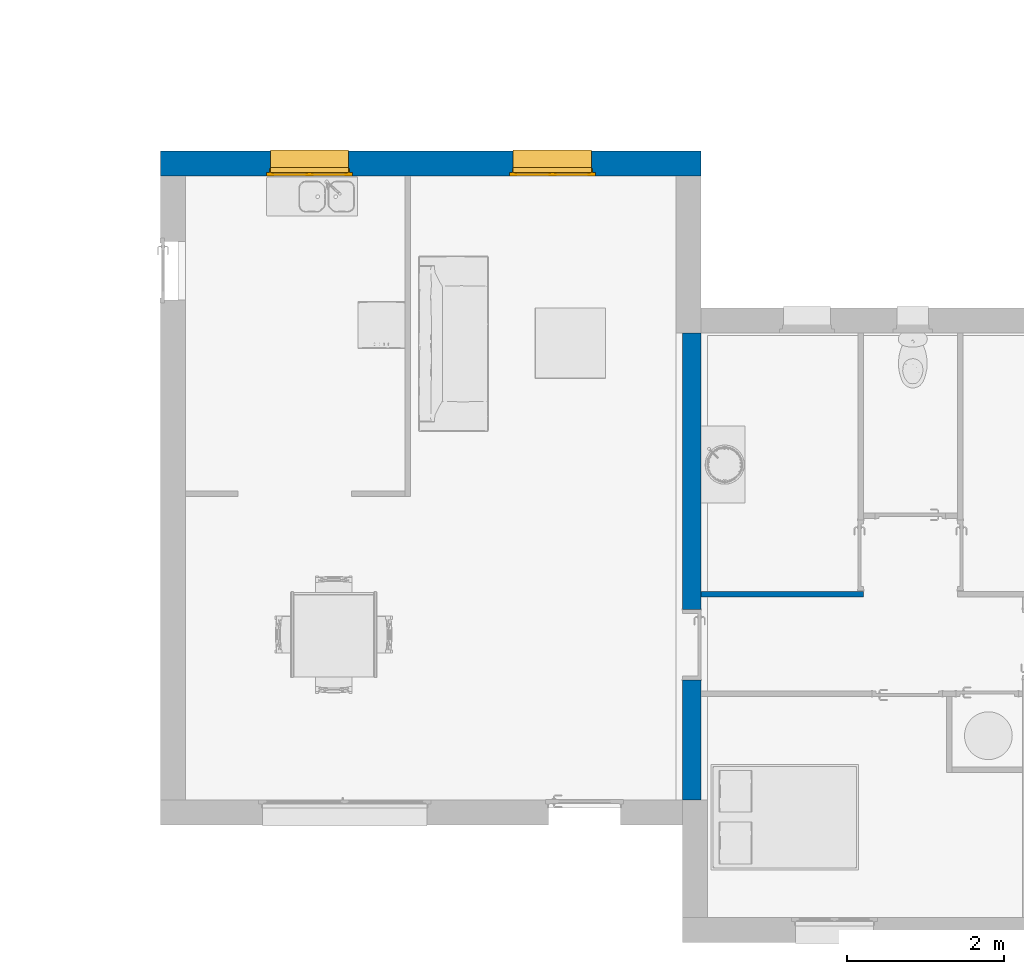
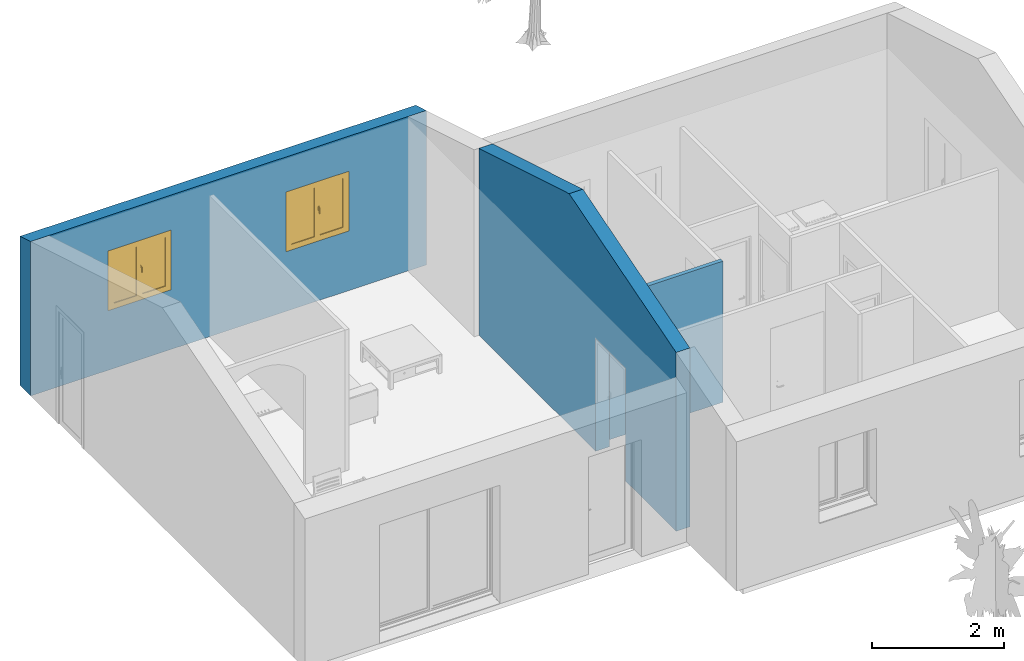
# One storey, part 5 of 18: 3 walls, 2 windows, 3 openings.
"""IFC2X3 building model written with IfcOpenShell, lengths in metres."""

from ifc_helpers import new_model, entity, si_unit, converted_unit, derived_unit, direction, frame, frame_2d, origin, place, context, subcontext, project, spatial, polyline, rectangle, extrude, clip, bounded_halfspace, faceted_brep, source, transform, mapped, material, material_list, layer, layer_set, layer_usage, type_object, type_shapes, element, fill, save


model = new_model("IFC2X3")

# Units and contexts
model_context = context("Model", 3, precision=1e-05, world=origin(), true_north=direction((6.12303176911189e-17, 1.0)))
body_context = subcontext(model_context, "Body", "Model", "MODEL_VIEW")
ifc_project = project(units=[si_unit("LENGTHUNIT", "METRE"), si_unit("AREAUNIT", "SQUARE_METRE"), si_unit("VOLUMEUNIT", "CUBIC_METRE"), converted_unit("PLANEANGLEUNIT", "DEGREE", entity("IfcRatioMeasure", 0.0174532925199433), si_unit("PLANEANGLEUNIT", "RADIAN"), dimensions=[0, 0, 0, 0, 0, 0, 0]), si_unit("MASSUNIT", "GRAM", prefix="KILO"), derived_unit("MASSDENSITYUNIT", [(si_unit("MASSUNIT", "GRAM", prefix="KILO"), 1), (si_unit("LENGTHUNIT", "METRE"), -3)]), derived_unit("MOMENTOFINERTIAUNIT", [(si_unit("LENGTHUNIT", "METRE"), 4)]), si_unit("TIMEUNIT", "SECOND"), si_unit("FREQUENCYUNIT", "HERTZ"), si_unit("THERMODYNAMICTEMPERATUREUNIT", "DEGREE_CELSIUS"), derived_unit("THERMALTRANSMITTANCEUNIT", [(si_unit("MASSUNIT", "GRAM", prefix="KILO"), 1), (si_unit("THERMODYNAMICTEMPERATUREUNIT", "KELVIN"), -1), (si_unit("TIMEUNIT", "SECOND"), -3)]), derived_unit("VOLUMETRICFLOWRATEUNIT", [(si_unit("LENGTHUNIT", "METRE"), 3), (si_unit("TIMEUNIT", "SECOND"), -1)]), si_unit("ELECTRICCURRENTUNIT", "AMPERE"), si_unit("ELECTRICVOLTAGEUNIT", "VOLT"), si_unit("POWERUNIT", "WATT"), si_unit("FORCEUNIT", "NEWTON", prefix="KILO"), si_unit("ILLUMINANCEUNIT", "LUX"), si_unit("LUMINOUSFLUXUNIT", "LUMEN"), si_unit("LUMINOUSINTENSITYUNIT", "CANDELA"), derived_unit("USERDEFINED", [(si_unit("MASSUNIT", "GRAM", prefix="KILO"), -1), (si_unit("LENGTHUNIT", "METRE"), -2), (si_unit("TIMEUNIT", "SECOND"), 3), (si_unit("LUMINOUSFLUXUNIT", "LUMEN"), 1)]), derived_unit("LINEARVELOCITYUNIT", [(si_unit("LENGTHUNIT", "METRE"), 1), (si_unit("TIMEUNIT", "SECOND"), -1)]), si_unit("PRESSUREUNIT", "PASCAL"), derived_unit("USERDEFINED", [(si_unit("LENGTHUNIT", "METRE"), -2), (si_unit("MASSUNIT", "GRAM", prefix="KILO"), 1), (si_unit("TIMEUNIT", "SECOND"), -2)]), derived_unit("LINEARFORCEUNIT", [(si_unit("MASSUNIT", "GRAM", prefix="KILO"), 1), (si_unit("LENGTHUNIT", "METRE"), 1), (si_unit("TIMEUNIT", "SECOND"), -2), (si_unit("LENGTHUNIT", "METRE"), -1)]), derived_unit("PLANARFORCEUNIT", [(si_unit("MASSUNIT", "GRAM", prefix="KILO"), 1), (si_unit("LENGTHUNIT", "METRE"), 1), (si_unit("TIMEUNIT", "SECOND"), -2), (si_unit("LENGTHUNIT", "METRE"), -2)])], contexts=[model_context])

# Site, building, storey
site_placement = place(None, origin())
site = spatial("IfcSite", under=ifc_project, at=site_placement, Name="Surface", CompositionType="ELEMENT")
building_placement = place(site_placement, origin())
building = spatial("IfcBuilding", under=site, at=building_placement, CompositionType="ELEMENT")
storey_placement = place(building_placement, origin())
storey = spatial("IfcBuildingStorey", under=building, at=storey_placement, Name="RDC", CompositionType="ELEMENT", Elevation=-1.94916083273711e-14)

# Wall, openings, windows
ifc_material_1 = material(Name="Maçonnerie - Enduit")
ifc_layer_1 = layer(ifc_material_1, 0.02)
ifc_material_2 = material(Name="Blocs béton manufacturés")
ifc_layer_2 = layer(ifc_material_2, 0.2)
ifc_material_3 = material(Name="Maçonnerie - Isolant")
ifc_layer_3 = layer(ifc_material_3, 0.1)
ifc_layer_set_1 = layer_set([ifc_layer_1, ifc_layer_2, ifc_layer_3], Name="Mur de base:Ext. Parpaing 20 + Isolant 10")
ifc_layer_usage_1 = layer_usage(ifc_layer_set_1, "AXIS2", "NEGATIVE", 0.16)
wall_type_1 = type_object("IfcWallType", Name="Mur de base:Ext. Parpaing 20 + Isolant 10", PredefinedType="STANDARD", material=ifc_layer_set_1)
wall_1_placement = place(storey_placement, frame((-18.0082926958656, 8.82737977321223, 0.0)))
wall_1 = element("IfcWallStandardCase", 1, at=wall_1_placement, inside=storey, type_object=wall_type_1, material=ifc_layer_usage_1, Name="Mur de base:Ext. Parpaing 20 + Isolant 10", ObjectType="Mur de base:Ext. Parpaing 20 + Isolant 10", context=body_context, shape_type="Clipping", body=[
    clip(extrude(rectangle(XDim=6.9, YDim=0.320000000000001, at=frame_2d((3.45, 0.0), x_axis=(-1.0, 0.0))), origin(), (0.0, 0.0, 1.0), 2.84600000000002), bounded_halfspace(frame((0.0, -0.159999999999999, 2.84600000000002), z_axis=(0.0, 0.287347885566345, 0.957826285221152), x_axis=(-1.0, 0.0, 0.0)), False, frame((0.0, -0.159999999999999, 2.84600000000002)), polyline([(0.0, 0.0), (0.320000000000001, 0.0), (6.58, 0.0), (6.9, 0.0), (6.9, 0.32), (0.0, 0.32), (0.0, 0.0)]))),
])
opening_1_placement = place(wall_1_placement, frame((1.35, -0.500000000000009, 1.0240395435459)))
opening_1 = element("IfcOpeningElement", 2, at=opening_1_placement, cuts=wall_1, Name="Mur de base:Ext. Parpaing 20 + Isolant 10", ObjectType="Opening", context=body_context, shape_type="Brep", body=[
    faceted_brep([(0.0499999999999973, 0.419999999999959, 0.0759604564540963), (0.0499999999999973, 0.440000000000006, 0.0759604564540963), (0.0499999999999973, 0.440000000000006, 1.1259604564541), (0.0499999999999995, 1.0, 1.1259604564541), (0.0499999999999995, 1.0, 0.0), (0.0499999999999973, 0.419999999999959, 0.0609604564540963), (1.05, 0.0, 0.0759604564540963), (1.05, 0.340000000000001, 0.0759604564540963), (1.05, 0.340000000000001, 1.1259604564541), (1.05, 0.0, 1.1259604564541), (0.0499999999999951, 0.0, 0.0759604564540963), (0.0499999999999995, 0.340000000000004, 0.0759604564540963), (0.0, 0.340000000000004, 0.0759604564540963), (0.0, 0.390000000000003, 0.0759604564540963), (0.0399999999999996, 0.390000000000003, 0.0759604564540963), (0.0399999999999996, 0.440000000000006, 0.0759604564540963), (1.05, 0.419999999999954, 0.0759604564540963), (1.05, 0.440000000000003, 0.0759604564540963), (1.06, 0.440000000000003, 0.0759604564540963), (1.06, 0.39, 0.0759604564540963), (1.1, 0.39, 0.0759604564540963), (1.1, 0.340000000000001, 0.0759604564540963), (0.0499999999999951, 0.0, 1.1259604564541), (1.05, 0.440000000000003, 1.1259604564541), (1.05, 1.0, 1.1259604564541), (1.05, 1.0, 0.0), (1.05, 0.419999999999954, 0.0609604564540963), (0.0, 0.340000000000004, 1.1759604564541), (0.0, 0.390000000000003, 1.1759604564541), (1.1, 0.39, 1.1759604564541), (1.06, 0.389999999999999, 1.1359604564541), (0.0399999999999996, 0.390000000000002, 1.1359604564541), (0.0399999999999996, 0.440000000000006, 1.1359604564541), (1.06, 0.440000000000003, 1.1359604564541), (0.0499999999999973, 0.340000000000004, 1.1259604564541), (1.1, 0.340000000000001, 1.1759604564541)], [[[0, 1, 2, 3, 4, 5]], [[6, 7, 8, 9]], [[10, 11, 12, 13, 14, 15, 1, 0, 16, 17, 18, 19, 20, 21, 7, 6]], [[10, 6, 9, 22]], [[3, 2, 23, 24]], [[3, 24, 25, 4]], [[4, 25, 26, 5]], [[5, 26, 16, 0]], [[12, 27, 28, 13]], [[13, 28, 29, 20, 19, 30, 31, 14]], [[14, 31, 32, 15]], [[15, 32, 33, 18, 17, 23, 2, 1]], [[11, 34, 8, 7, 21, 35, 27, 12]], [[27, 35, 29, 28]], [[30, 33, 32, 31]], [[29, 35, 21, 20]], [[19, 18, 33, 30]], [[9, 8, 34, 22]], [[24, 23, 17, 16, 26, 25]], [[22, 34, 11, 10]]]),
])
opening_2_placement = place(wall_1_placement, frame((4.45, -0.500000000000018, 1.0240395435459)))
opening_2 = element("IfcOpeningElement", 3, at=opening_2_placement, cuts=wall_1, Name="Mur de base:Ext. Parpaing 20 + Isolant 10", ObjectType="Opening", context=body_context, shape_type="Brep", body=[
    faceted_brep([(0.0499999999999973, 0.419999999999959, 0.0759604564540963), (0.0499999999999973, 0.440000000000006, 0.0759604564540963), (0.0499999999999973, 0.440000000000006, 1.1259604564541), (0.0499999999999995, 1.0, 1.1259604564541), (0.0499999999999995, 1.0, 0.0), (0.0499999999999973, 0.419999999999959, 0.0609604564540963), (1.05, 0.0, 0.0759604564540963), (1.05, 0.340000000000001, 0.0759604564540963), (1.05, 0.340000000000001, 1.1259604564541), (1.05, 0.0, 1.1259604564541), (0.0499999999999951, 0.0, 0.0759604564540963), (0.0499999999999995, 0.340000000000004, 0.0759604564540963), (0.0, 0.340000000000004, 0.0759604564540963), (0.0, 0.390000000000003, 0.0759604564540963), (0.0399999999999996, 0.390000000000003, 0.0759604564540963), (0.0399999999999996, 0.440000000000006, 0.0759604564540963), (1.05, 0.419999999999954, 0.0759604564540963), (1.05, 0.440000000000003, 0.0759604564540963), (1.06, 0.440000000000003, 0.0759604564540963), (1.06, 0.39, 0.0759604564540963), (1.1, 0.39, 0.0759604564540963), (1.1, 0.340000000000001, 0.0759604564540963), (0.0499999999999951, 0.0, 1.1259604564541), (1.05, 0.440000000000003, 1.1259604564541), (1.05, 1.0, 1.1259604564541), (1.05, 1.0, 0.0), (1.05, 0.419999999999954, 0.0609604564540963), (0.0, 0.340000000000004, 1.1759604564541), (0.0, 0.390000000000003, 1.1759604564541), (1.1, 0.39, 1.1759604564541), (1.06, 0.389999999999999, 1.1359604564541), (0.0399999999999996, 0.390000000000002, 1.1359604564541), (0.0399999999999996, 0.440000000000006, 1.1359604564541), (1.06, 0.440000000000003, 1.1359604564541), (0.0499999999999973, 0.340000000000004, 1.1259604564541), (1.1, 0.340000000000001, 1.1759604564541)], [[[0, 1, 2, 3, 4, 5]], [[6, 7, 8, 9]], [[10, 11, 12, 13, 14, 15, 1, 0, 16, 17, 18, 19, 20, 21, 7, 6]], [[10, 6, 9, 22]], [[3, 2, 23, 24]], [[3, 24, 25, 4]], [[4, 25, 26, 5]], [[5, 26, 16, 0]], [[12, 27, 28, 13]], [[13, 28, 29, 20, 19, 30, 31, 14]], [[14, 31, 32, 15]], [[15, 32, 33, 18, 17, 23, 2, 1]], [[11, 34, 8, 7, 21, 35, 27, 12]], [[27, 35, 29, 28]], [[30, 33, 32, 31]], [[29, 35, 21, 20]], [[19, 18, 33, 30]], [[9, 8, 34, 22]], [[24, 23, 17, 16, 26, 25]], [[22, 34, 11, 10]]]),
])
ifc_material_4 = material(Name="Fenêtre - Poignée")
ifc_material_5 = material(Name="Fenêtre - Appui")
ifc_material_6 = material(Name="Fenêtre - Cadre")
ifc_material_7 = material(Name="Fenêtre - Vitrage")
ifc_material_list_1 = material_list([ifc_material_4, ifc_material_5, ifc_material_6, ifc_material_7])
ifc_material_list_2 = material_list([ifc_material_7, ifc_material_6, ifc_material_4, ifc_material_5, ifc_material_6])
window_style = type_object("IfcWindowStyle", Name="2 Vantaux - Droits:1m x 1.05m - Appui Alu", ConstructionType="NOTDEFINED", OperationType="DOUBLE_PANEL_VERTICAL", ParameterTakesPrecedence=False, Sizeable=False, material=ifc_material_list_2)
shared_shape = source(origin(), body_context, "Body", "Brep", [
    faceted_brep([(0.580646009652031, -0.66600000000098, 0.697994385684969), (0.582033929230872, -0.66600000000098, 0.696606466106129), (0.582033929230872, -0.66600000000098, 0.685292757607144), (0.580667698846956, -0.66600000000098, 0.683926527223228), (0.569332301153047, -0.66600000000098, 0.683926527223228), (0.567966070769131, -0.66600000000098, 0.685292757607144), (0.567966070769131, -0.66600000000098, 0.696606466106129), (0.569353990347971, -0.66600000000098, 0.697994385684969), (0.580646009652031, -0.678913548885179, 0.697994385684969), (0.582033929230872, -0.67833865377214, 0.696606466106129), (0.582033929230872, -0.69164600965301, 0.683299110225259), (0.582033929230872, -0.69164600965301, 0.595960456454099), (0.582033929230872, -0.680332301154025, 0.595960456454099), (0.582033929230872, -0.680332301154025, 0.678612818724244), (0.582033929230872, -0.673652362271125, 0.685292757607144), (0.580667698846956, -0.673086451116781, 0.683926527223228), (0.569332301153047, -0.673086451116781, 0.683926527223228), (0.567966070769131, -0.673652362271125, 0.685292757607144), (0.567966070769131, -0.680332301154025, 0.678612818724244), (0.567966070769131, -0.680332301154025, 0.595960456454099), (0.567966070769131, -0.69164600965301, 0.595960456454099), (0.567966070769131, -0.69164600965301, 0.683299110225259), (0.567966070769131, -0.67833865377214, 0.696606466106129), (0.569353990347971, -0.678913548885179, 0.697994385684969), (0.580646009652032, -0.69303392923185, 0.683874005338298), (0.580667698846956, -0.67896607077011, 0.6780469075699), (0.569332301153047, -0.67896607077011, 0.6780469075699), (0.569353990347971, -0.69303392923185, 0.683874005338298), (0.580646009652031, -0.69303392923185, 0.595960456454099), (0.569353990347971, -0.69303392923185, 0.595960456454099), (0.569332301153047, -0.678966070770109, 0.595960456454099), (0.580667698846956, -0.678966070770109, 0.595960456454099)], [[[0, 1, 2, 3, 4, 5, 6, 7]], [[1, 0, 8, 9]], [[2, 1, 9, 10, 11, 12, 13, 14]], [[3, 2, 14, 15]], [[4, 3, 15, 16]], [[5, 4, 16, 17]], [[6, 5, 17, 18, 19, 20, 21, 22]], [[7, 6, 22, 23]], [[0, 7, 23, 8]], [[9, 8, 24, 10]], [[15, 14, 13, 25]], [[16, 15, 25, 26]], [[17, 16, 26, 18]], [[23, 22, 21, 27]], [[8, 23, 27, 24]], [[28, 29, 20, 19, 30, 31, 12, 11]], [[10, 24, 28, 11]], [[25, 13, 12, 31]], [[26, 25, 31, 30]], [[18, 26, 30, 19]], [[27, 21, 20, 29]], [[24, 27, 29, 28]]]),
    faceted_brep([(0.582000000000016, -0.666000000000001, 0.715960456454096), (0.568, -0.666000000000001, 0.715960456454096), (0.563, -0.666000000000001, 0.710960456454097), (0.563, -0.666000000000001, 0.640960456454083), (0.567999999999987, -0.666000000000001, 0.635960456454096), (0.582000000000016, -0.666000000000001, 0.635960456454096), (0.587000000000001, -0.666000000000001, 0.640960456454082), (0.587000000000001, -0.666000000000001, 0.710960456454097), (0.582000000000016, -0.660000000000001, 0.715960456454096), (0.587000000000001, -0.660000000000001, 0.710960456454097), (0.587000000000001, -0.660000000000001, 0.640960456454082), (0.582000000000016, -0.660000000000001, 0.635960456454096), (0.567999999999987, -0.660000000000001, 0.635960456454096), (0.563, -0.660000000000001, 0.640960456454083), (0.563, -0.660000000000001, 0.710960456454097), (0.568, -0.660000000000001, 0.715960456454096)], [[[0, 1, 2, 3, 4, 5, 6, 7]], [[8, 9, 10, 11, 12, 13, 14, 15]], [[1, 0, 8, 15]], [[2, 1, 15, 14]], [[3, 2, 14, 13]], [[4, 3, 13, 12]], [[5, 4, 12, 11]], [[6, 5, 11, 10]], [[7, 6, 10, 9]], [[0, 7, 9, 8]]]),
    faceted_brep([(1.05, -0.324999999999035, 0.0394140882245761), (1.05, -0.574999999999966, 0.0656901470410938), (1.05, -0.574999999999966, 0.0759604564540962), (1.05, -0.579999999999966, 0.0759604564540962), (1.05, -0.579999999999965, 0.0609604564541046), (1.05, -0.329999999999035, 0.0346843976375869), (1.05, -0.329999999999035, 0.0243838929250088), (1.05, -0.324999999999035, 0.0238583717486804), (0.0499999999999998, -0.324999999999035, 0.0394140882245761), (0.0499999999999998, -0.324999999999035, 0.0238583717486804), (0.0499999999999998, -0.329999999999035, 0.0243838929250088), (0.0499999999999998, -0.329999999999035, 0.0346843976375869), (0.0499999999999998, -0.579999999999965, 0.0609604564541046), (0.0499999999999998, -0.579999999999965, 0.0759604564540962), (0.0499999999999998, -0.574999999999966, 0.0759604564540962), (0.0499999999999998, -0.574999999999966, 0.0656901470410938)], [[[0, 1, 2, 3, 4, 5, 6, 7]], [[8, 9, 10, 11, 12, 13, 14, 15]], [[1, 0, 8, 15]], [[2, 1, 15, 14]], [[3, 2, 14, 13]], [[4, 3, 13, 12]], [[5, 4, 12, 11]], [[6, 5, 11, 10]], [[7, 6, 10, 9]], [[0, 7, 9, 8]]]),
    faceted_brep([(0.0500000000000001, -0.324999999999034, 0.0408400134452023), (0.0500000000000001, -0.324999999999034, 0.0394140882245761), (0.0499999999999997, -0.574999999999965, 0.0656901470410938), (0.0499999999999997, -0.574999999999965, 0.0707176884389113), (0.0500000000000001, -0.328581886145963, 0.0448181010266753), (0.0500000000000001, -0.326027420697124, 0.0435165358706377), (0.0549999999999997, -0.574999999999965, 0.0707176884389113), (0.0549999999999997, -0.574999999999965, 0.0656901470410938), (0.0550000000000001, -0.324999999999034, 0.0394140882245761), (0.0550000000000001, -0.324999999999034, 0.0408400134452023), (0.0550000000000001, -0.326027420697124, 0.0435165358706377), (0.0550000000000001, -0.328581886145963, 0.0448181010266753)], [[[0, 1, 2, 3, 4, 5]], [[6, 7, 8, 9, 10, 11]], [[2, 1, 8, 7]], [[3, 2, 7, 6]], [[4, 3, 6, 11]], [[4, 11, 10, 5]], [[10, 9, 0, 5]], [[1, 0, 9, 8]]]),
    faceted_brep([(1.045, -0.324999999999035, 0.0408400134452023), (1.045, -0.324999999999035, 0.0394140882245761), (1.045, -0.574999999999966, 0.0656901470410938), (1.045, -0.574999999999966, 0.0707176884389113), (1.045, -0.328581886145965, 0.0448181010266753), (1.045, -0.326027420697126, 0.0435165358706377), (1.05, -0.574999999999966, 0.0707176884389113), (1.05, -0.574999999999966, 0.0656901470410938), (1.05, -0.324999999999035, 0.0394140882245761), (1.05, -0.324999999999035, 0.0408400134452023), (1.05, -0.326027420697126, 0.0435165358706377), (1.05, -0.328581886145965, 0.0448181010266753)], [[[0, 1, 2, 3, 4, 5]], [[6, 7, 8, 9, 10, 11]], [[2, 1, 8, 7]], [[3, 2, 7, 6]], [[4, 3, 6, 11]], [[4, 11, 10, 5]], [[10, 9, 0, 5]], [[1, 0, 9, 8]]]),
    faceted_brep([(0.549999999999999, -0.619999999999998, 1.1259604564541), (0.549999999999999, -0.65999999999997, 1.1259604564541), (0.549999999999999, -0.65999999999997, 0.125960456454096), (0.549999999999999, -0.619999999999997, 0.125960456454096), (0.0499999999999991, -0.659999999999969, 0.125960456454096), (0.0499999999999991, -0.619999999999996, 0.125960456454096), (0.0499999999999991, -0.659999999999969, 1.1259604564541), (0.0999999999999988, -0.659999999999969, 0.175960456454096), (0.0999999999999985, -0.659999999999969, 1.0759604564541), (0.5, -0.65999999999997, 1.0759604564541), (0.5, -0.65999999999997, 0.175960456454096), (0.0499999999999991, -0.619999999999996, 1.1259604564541), (0.5, -0.619999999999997, 0.175960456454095), (0.5, -0.619999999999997, 1.0759604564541), (0.0999999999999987, -0.619999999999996, 1.0759604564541), (0.0999999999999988, -0.619999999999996, 0.175960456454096)], [[[0, 1, 2, 3]], [[3, 2, 4, 5]], [[2, 1, 6, 4], [7, 8, 9, 10]], [[5, 4, 6, 11]], [[5, 11, 0, 3], [12, 13, 14, 15]], [[9, 13, 12, 10]], [[10, 12, 15, 7]], [[7, 15, 14, 8]], [[11, 6, 1, 0]], [[8, 14, 13, 9]]]),
    faceted_brep([(0.6, -0.634000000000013, 0.175960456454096), (0.6, -0.634000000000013, 1.0759604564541), (1.0, -0.634000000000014, 1.0759604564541), (1.0, -0.634000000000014, 0.175960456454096), (0.6, -0.646000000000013, 0.175960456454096), (0.599999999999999, -0.646000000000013, 1.0759604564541), (1.0, -0.646000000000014, 1.0759604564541), (1.0, -0.646000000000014, 0.175960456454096)], [[[0, 1, 2, 3]], [[1, 0, 4, 5]], [[3, 2, 6, 7]], [[0, 3, 7, 4]], [[2, 1, 5, 6]], [[4, 7, 6, 5]]]),
    faceted_brep([(0.5, -0.634000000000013, 0.175960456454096), (0.5, -0.634000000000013, 1.0759604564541), (0.5, -0.646000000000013, 1.0759604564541), (0.5, -0.646000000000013, 0.175960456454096), (0.0999999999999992, -0.634000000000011, 0.175960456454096), (0.0999999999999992, -0.646000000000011, 0.175960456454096), (0.0999999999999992, -0.634000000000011, 1.0759604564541), (0.0999999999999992, -0.646000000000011, 1.0759604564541)], [[[0, 1, 2, 3]], [[4, 0, 3, 5]], [[6, 4, 5, 7]], [[7, 5, 3, 2]], [[1, 6, 7, 2]], [[6, 1, 0, 4]]]),
    faceted_brep([(0.6, -0.620000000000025, 1.0759604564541), (0.599999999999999, -0.660000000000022, 1.0759604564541), (0.6, -0.660000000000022, 0.175960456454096), (0.6, -0.620000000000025, 0.175960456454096), (1.0, -0.660000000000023, 0.175960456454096), (1.0, -0.620000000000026, 0.175960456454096), (1.0, -0.660000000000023, 1.0759604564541), (1.05, -0.660000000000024, 0.125960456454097), (1.05, -0.660000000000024, 1.12596045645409), (0.55, -0.660000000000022, 1.12596045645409), (0.55, -0.660000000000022, 0.125960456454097), (1.0, -0.620000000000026, 1.0759604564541), (0.55, -0.620000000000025, 0.125960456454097), (0.55, -0.620000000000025, 1.12596045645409), (1.05, -0.620000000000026, 1.12596045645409), (1.05, -0.620000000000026, 0.125960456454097)], [[[0, 1, 2, 3]], [[3, 2, 4, 5]], [[2, 1, 6, 4], [7, 8, 9, 10]], [[5, 4, 6, 11]], [[5, 11, 0, 3], [12, 13, 14, 15]], [[9, 13, 12, 10]], [[10, 12, 15, 7]], [[7, 15, 14, 8]], [[11, 6, 1, 0]], [[8, 14, 13, 9]]], outer=[[True], [True], [False, True], [True], [False, True], [True], [True], [True], [True], [True]]),
    faceted_brep([(0.0, -0.660000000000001, 0.0759604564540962), (0.0, -0.610000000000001, 0.0759604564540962), (0.0499999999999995, -0.610000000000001, 0.0759604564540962), (0.0499999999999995, -0.560000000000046, 0.0759604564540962), (1.05, -0.560000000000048, 0.0759604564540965), (1.05, -0.610000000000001, 0.0759604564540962), (1.1, -0.610000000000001, 0.0759604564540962), (1.1, -0.660000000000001, 0.0759604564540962), (0.0, -0.660000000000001, 1.1759604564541), (0.0, -0.610000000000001, 1.1759604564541), (1.1, -0.610000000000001, 1.1759604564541), (1.05, -0.610000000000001, 0.115336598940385), (0.0499999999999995, -0.610000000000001, 0.1153365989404), (0.0649999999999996, -0.610000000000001, 1.1109604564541), (0.0649999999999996, -0.610000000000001, 0.140960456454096), (1.035, -0.610000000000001, 0.140960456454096), (1.035, -0.610000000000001, 1.1109604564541), (0.0499999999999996, -0.550000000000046, 0.0992596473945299), (0.0499999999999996, -0.550000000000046, 0.0709604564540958), (0.0499999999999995, -0.560000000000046, 0.0709604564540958), (1.05, -0.560000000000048, 0.0709604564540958), (1.05, -0.550000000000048, 0.0709604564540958), (1.05, -0.550000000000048, 0.0992596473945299), (1.1, -0.660000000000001, 1.1759604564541), (1.05, -0.660000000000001, 1.1259604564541), (1.05, -0.660000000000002, 0.125960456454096), (0.0499999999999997, -0.660000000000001, 0.125960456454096), (0.0499999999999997, -0.660000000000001, 1.1259604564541), (0.0649999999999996, -0.620000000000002, 1.1109604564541), (0.0649999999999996, -0.620000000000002, 0.140960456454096), (1.035, -0.620000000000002, 0.140960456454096), (1.035, -0.620000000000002, 1.1109604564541), (1.05, -0.620000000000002, 1.1259604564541), (0.0499999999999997, -0.620000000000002, 1.1259604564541), (0.0499999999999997, -0.620000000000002, 0.125960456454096), (1.05, -0.620000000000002, 0.125960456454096)], [[[0, 1, 2, 3, 4, 5, 6, 7]], [[1, 0, 8, 9]], [[1, 9, 10, 6, 5, 11, 12, 2], [13, 14, 15, 16]], [[12, 17, 18, 19, 3, 2]], [[3, 19, 20, 4]], [[4, 20, 21, 22, 11, 5]], [[6, 10, 23, 7]], [[0, 7, 23, 8], [24, 25, 26, 27]], [[13, 28, 29, 14]], [[29, 30, 15, 14]], [[31, 16, 15, 30]], [[17, 12, 11, 22]], [[32, 33, 34, 35], [28, 31, 30, 29]], [[34, 33, 27, 26]], [[26, 25, 35, 34]], [[24, 32, 35, 25]], [[18, 17, 22, 21]], [[19, 18, 21, 20]], [[13, 16, 31, 28]], [[33, 32, 24, 27]], [[10, 9, 8, 23]]]),
    faceted_brep([(0.0499999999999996, -0.559999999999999, 0.0759604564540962), (0.0499999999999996, -0.610000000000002, 0.0759604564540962), (0.0399999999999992, -0.610000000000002, 0.0759604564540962), (0.0399999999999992, -0.559999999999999, 0.0759604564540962), (0.0499999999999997, -0.559999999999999, 1.1259604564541), (0.0499999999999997, -0.610000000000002, 1.1259604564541), (1.05, -0.610000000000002, 1.1259604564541), (1.05, -0.610000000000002, 0.0759604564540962), (1.06, -0.610000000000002, 0.0759604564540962), (1.06, -0.610000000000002, 1.1359604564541), (0.0399999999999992, -0.610000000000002, 1.1359604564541), (0.0399999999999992, -0.559999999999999, 1.1359604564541), (1.06, -0.559999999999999, 1.1359604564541), (1.06, -0.559999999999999, 0.0759604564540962), (1.05, -0.559999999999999, 0.0759604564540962), (1.05, -0.559999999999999, 1.1259604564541)], [[[0, 1, 2, 3]], [[1, 0, 4, 5]], [[2, 1, 5, 6, 7, 8, 9, 10]], [[3, 2, 10, 11]], [[0, 3, 11, 12, 13, 14, 15, 4]], [[6, 15, 14, 7]], [[14, 13, 8, 7]], [[12, 9, 8, 13]], [[5, 4, 15, 6]], [[11, 10, 9, 12]]]),
    faceted_brep([(0.569999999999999, -0.612000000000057, 1.11096045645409), (0.529999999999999, -0.612000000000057, 1.11096045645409), (0.529999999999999, -0.620000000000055, 1.11096045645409), (0.569999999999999, -0.620000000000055, 1.11096045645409), (0.569999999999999, -0.612000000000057, 0.140960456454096), (0.569999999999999, -0.620000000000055, 0.140960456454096), (0.529999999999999, -0.620000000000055, 0.140960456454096), (0.529999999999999, -0.612000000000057, 0.140960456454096)], [[[0, 1, 2, 3]], [[4, 5, 6, 7]], [[1, 0, 4, 7]], [[2, 1, 7, 6]], [[3, 2, 6, 5]], [[0, 3, 5, 4]]]),
])
type_shapes(window_style, [shared_shape])
window_1_placement = place(opening_1_placement, frame((0.0, 1.0, 0.0)))
window_1 = element("IfcWindow", 4, at=window_1_placement, inside=storey, type_object=window_style, material=ifc_material_list_1, Name="2 Vantaux - Droits:1m x 1.05m - Appui Alu", ObjectType="2 Vantaux - Droits:1m x 1.05m - Appui Alu", OverallHeight=1.18, OverallWidth=1.1, context=body_context, shape_type="MappedRepresentation", body=[
    mapped(shared_shape, transform((0.0, 0.0, 0.0), scale=1.0)),
])
fill(opening_1, window_1)
ifc_material_list_3 = material_list([ifc_material_4, ifc_material_5, ifc_material_6, ifc_material_7])
window_2_placement = place(opening_2_placement, frame((0.0, 1.0, 0.0)))
window_2 = element("IfcWindow", 5, at=window_2_placement, inside=storey, type_object=window_style, material=ifc_material_list_3, Name="2 Vantaux - Droits:1m x 1.05m - Appui Alu", ObjectType="2 Vantaux - Droits:1m x 1.05m - Appui Alu", OverallHeight=1.18, OverallWidth=1.1, context=body_context, shape_type="MappedRepresentation", body=[
    mapped(shared_shape, transform((0.0, 0.0, 0.0), scale=1.0)),
])
fill(opening_2, window_2)

# Wall, opening
ifc_layer_4 = layer(ifc_material_1, 0.02)
ifc_layer_5 = layer(ifc_material_2, 0.2)
ifc_layer_6 = layer(ifc_material_1, 0.02)
ifc_layer_set_2 = layer_set([ifc_layer_4, ifc_layer_5, ifc_layer_6], Name="Mur de base:parpaing 20 + enduit 2 faces 2 cm")
ifc_layer_usage_2 = layer_usage(ifc_layer_set_2, "AXIS2", "NEGATIVE", 0.12)
wall_type_2 = type_object("IfcWallType", Name="Mur de base:parpaing 20 + enduit 2 faces 2 cm", PredefinedType="STANDARD", material=ifc_layer_set_2)
wall_2_placement = place(storey_placement, frame((-11.2282926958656, 6.66737977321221, 0.0), z_axis=(0.0, 0.0, 1.0), x_axis=(0.0, -1.0, 0.0)))
wall_2 = element("IfcWallStandardCase", 6, at=wall_2_placement, inside=storey, type_object=wall_type_2, material=ifc_layer_usage_2, Name="Mur de base:parpaing 20 + enduit 2 faces 2 cm", ObjectType="Mur de base:parpaing 20 + enduit 2 faces 2 cm", context=body_context, shape_type="Clipping", body=[
    clip(clip(extrude(rectangle(XDim=5.95999999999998, YDim=0.240000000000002, at=frame_2d((2.97999999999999, -1.38777878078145e-16), x_axis=(-1.0, 0.0))), origin(), (0.0, 0.0, 1.0), 4.26500000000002), bounded_halfspace(frame((0.0, 0.12, 3.44600000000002), z_axis=(-0.287347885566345, 0.0, 0.957826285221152), x_axis=(0.0, -1.0, 0.0)), False, frame((0.0, 0.12, 3.44600000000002)), polyline([(0.0, 0.0), (0.0, -0.24), (1.97999999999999, -0.24), (2.32801021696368, -0.24), (2.72999999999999, -0.239999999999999), (2.72999999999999, 0.0), (0.0, 0.0)]))), bounded_halfspace(frame((5.95999999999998, -0.120000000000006, 3.29600000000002), z_axis=(0.287347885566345, 0.0, 0.957826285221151), x_axis=(0.0, 1.0, 0.0)), False, frame((5.95999999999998, -0.120000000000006, 3.29600000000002)), polyline([(0.0, 0.0), (0.0, 0.240000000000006), (-3.22999999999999, 0.240000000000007), (-3.22999999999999, 0.0), (0.0, 0.0)]))),
])
opening_3_placement = place(wall_2_placement, frame((3.52999999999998, -0.12, 0.0)))
element("IfcOpeningElement", 7, at=opening_3_placement, cuts=wall_2, Name="Int. Simple:PP (0.83m x 2.04m):1", ObjectType="Opening", context=body_context, shape_type="SweptSolid", body=[
    extrude(rectangle(XDim=2.075, YDim=0.9, at=frame_2d((1.0375, 0.45), x_axis=(1.0, 0.0))), frame((0.0, 0.0, 0.0), z_axis=(0.0, 1.0, 0.0), x_axis=(0.0, 0.0, 1.0)), (0.0, 0.0, 1.0), 0.24),
])

# Wall
ifc_material_8 = material(Name="Mur par défaut")
ifc_layer_7 = layer(ifc_material_8, 0.07)
ifc_layer_set_3 = layer_set([ifc_layer_7], Name="Mur de base:Int. Plâtre 70 mm")
ifc_layer_usage_3 = layer_usage(ifc_layer_set_3, "AXIS2", "NEGATIVE", 0.035)
wall_type_3 = type_object("IfcWallType", Name="Mur de base:Int. Plâtre 70 mm", PredefinedType="STANDARD", material=ifc_layer_set_3)
wall_3_placement = place(storey_placement, frame((-11.1082926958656, 3.33237977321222, 0.0)))
element("IfcWallStandardCase", 8, at=wall_3_placement, inside=storey, type_object=wall_type_3, material=ifc_layer_usage_3, Name="Mur de base:Int. Plâtre 70 mm", ObjectType="Mur de base:Int. Plâtre 70 mm", context=body_context, shape_type="SweptSolid", body=[
    extrude(rectangle(XDim=2.07, YDim=0.0700000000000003, at=frame_2d((1.035, 1.14491749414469e-16), x_axis=(-1.0, 0.0))), origin(), (0.0, 0.0, 1.0), 2.6),
])

save(model, "model.ifc")
